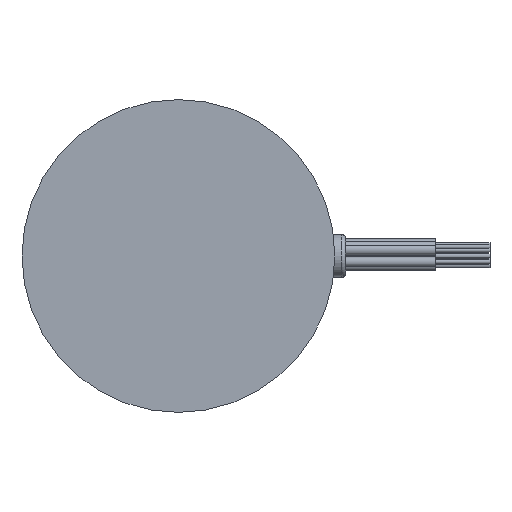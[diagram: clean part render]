
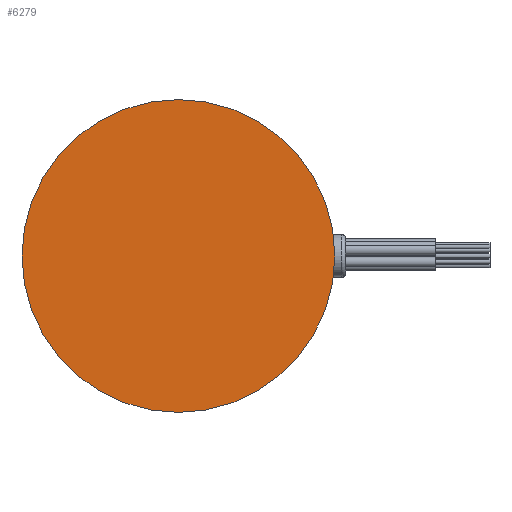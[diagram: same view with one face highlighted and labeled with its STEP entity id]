
A CAD part, front view. The second image highlights one B-rep face of the part: STEP entity #6279.
In plain terms, the highlighted planar face has unit normal (0, -1, 0).
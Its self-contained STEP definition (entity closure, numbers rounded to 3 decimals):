
#81 = CARTESIAN_POINT ( 'NONE',  ( 18.558, 19.015, 111.697 ) ) ;
#215 = CARTESIAN_POINT ( 'NONE',  ( 18.558, 19.015, 89.697 ) ) ;
#315 = CIRCLE ( 'NONE', #1718, 22. ) ;
#728 = DIRECTION ( 'NONE',  ( 0., 0., 1. ) ) ;
#920 = ORIENTED_EDGE ( 'NONE', *, *, #3036, .F. ) ;
#1270 = DIRECTION ( 'NONE',  ( 0., 1., 0. ) ) ;
#1305 = AXIS2_PLACEMENT_3D ( 'NONE', #215, #1270, #1839 ) ;
#1705 = VERTEX_POINT ( 'NONE', #6193 ) ;
#1718 = AXIS2_PLACEMENT_3D ( 'NONE', #6440, #7030, #728 ) ;
#1839 = DIRECTION ( 'NONE',  ( 0., 0., 1. ) ) ;
#2331 = DIRECTION ( 'NONE',  ( 0., 1., 0. ) ) ;
#2891 = AXIS2_PLACEMENT_3D ( 'NONE', #3437, #2331, #5793 ) ;
#3036 = EDGE_CURVE ( 'NONE', #1705, #3479, #315, .T. ) ;
#3402 = EDGE_LOOP ( 'NONE', ( #6262, #920 ) ) ;
#3437 = CARTESIAN_POINT ( 'NONE',  ( 18.558, 19.015, 89.697 ) ) ;
#3479 = VERTEX_POINT ( 'NONE', #81 ) ;
#3573 = PLANE ( 'NONE',  #1305 ) ;
#3783 = FACE_OUTER_BOUND ( 'NONE', #3402, .T. ) ;
#5686 = CIRCLE ( 'NONE', #2891, 22. ) ;
#5793 = DIRECTION ( 'NONE',  ( 0., 0., 1. ) ) ;
#5798 = EDGE_CURVE ( 'NONE', #3479, #1705, #5686, .T. ) ;
#6193 = CARTESIAN_POINT ( 'NONE',  ( 18.558, 19.015, 67.697 ) ) ;
#6262 = ORIENTED_EDGE ( 'NONE', *, *, #5798, .F. ) ;
#6279 = ADVANCED_FACE ( 'NONE', ( #3783 ), #3573, .F. ) ;
#6440 = CARTESIAN_POINT ( 'NONE',  ( 18.558, 19.015, 89.697 ) ) ;
#7030 = DIRECTION ( 'NONE',  ( 0., 1., 0. ) ) ;
